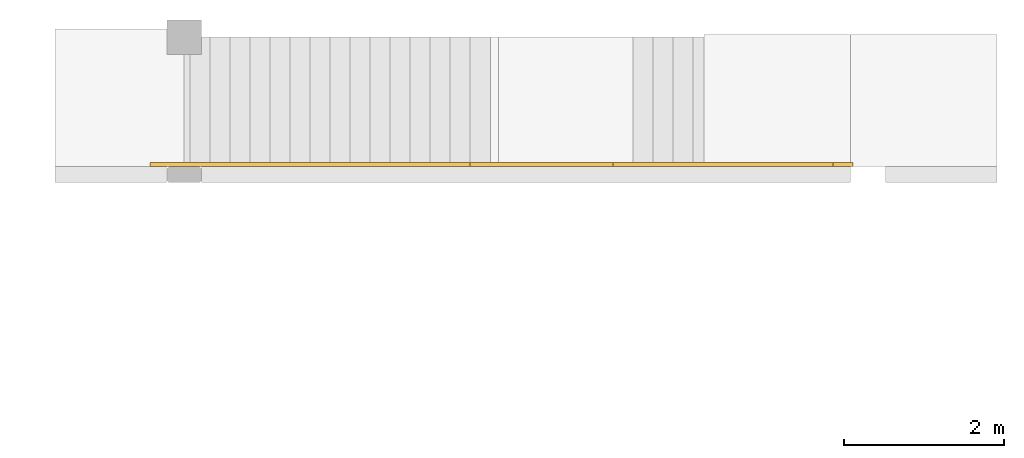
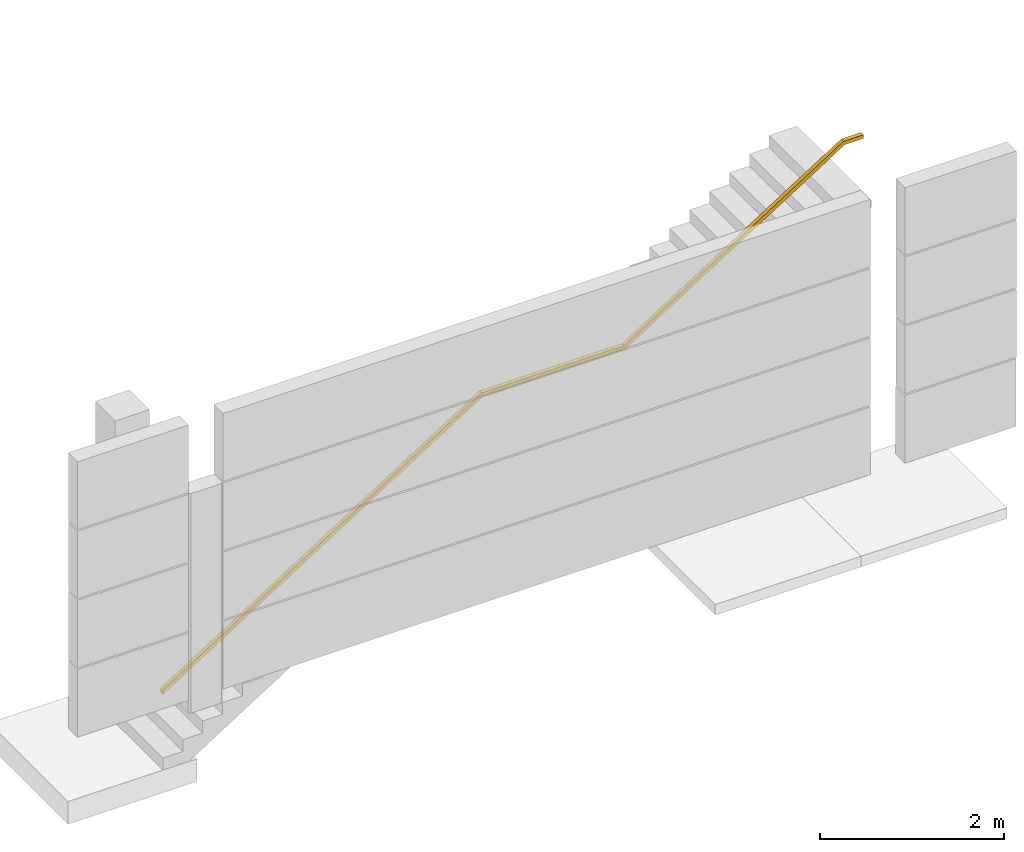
# One storey, part 4 of 5: 1 railing, 1 element without a shape of its own.
"""IFC2X3 building model written with IfcOpenShell, lengths in millimetres."""

import ifcopenshell
import ifcopenshell.guid

model = None  # the IFC model being written
_history = None  # IfcOwnerHistory: only IFC2X3 demands one
_inside = {}  # id of a spatial element -> (the spatial element, [elements in it])
_under = {}  # id of a project, library or spatial element -> (it, [spatial elements below it])
_declared = {}  # id of a project -> (the project, [libraries it declares])
_typed = {}  # id of a type object -> (the type object, [elements of that type])
_made_of = {}  # id of a material, layer set ... -> (it, [elements and type objects made of it])


def new_model(schema):
    """Start an empty IFC model of exactly this schema.

    Asked for "IFC4X3", IfcOpenShell would pick the latest addendum, in which some entities
    have other attributes; the version numbers below select the first issue.
    IFC2X3 requires an IfcOwnerHistory on every rooted entity: one is made here for all.
    """
    global model, _history
    if schema == "IFC4X3":
        model = ifcopenshell.file(schema_version=(4, 3, 0, 0))
    else:
        model = ifcopenshell.file(schema=schema)
    _inside.clear()
    _under.clear()
    _declared.clear()
    _typed.clear()
    _made_of.clear()
    _history = None
    if model.schema == "IFC2X3":
        org = make("IfcOrganization", Name="unknown")
        user = make(
            "IfcPersonAndOrganization",
            ThePerson=make("IfcPerson", FamilyName="unknown"),
            TheOrganization=org,
        )
        app = make(
            "IfcApplication",
            ApplicationDeveloper=org,
            Version="unknown",
            ApplicationFullName="unknown",
            ApplicationIdentifier="unknown",
        )
        _history = make(
            "IfcOwnerHistory",
            OwningUser=user,
            OwningApplication=app,
            ChangeAction="ADDED",
            CreationDate=0,
        )
    return model


def make(cls, **values):
    """One entity of the class cls with the attributes given. An attribute that is None is left unset."""
    return model.create_entity(
        cls, **{name: value for name, value in values.items() if value is not None}
    )


def entity(cls, *values):
    """Any entity or typed value of the class cls, its attributes in the order of the schema. None: left unset."""
    e = model.create_entity(cls)
    for i, value in enumerate(values):
        if value is not None:
            e[i] = value
    return e


def rooted(cls, **values):
    """An entity with a GlobalId (a new one), such as an element, a storey or a relation."""
    return make(cls, GlobalId=ifcopenshell.guid.new(), OwnerHistory=_history, **values)


def si_unit(unit_type, name, prefix=None):
    """IfcSIUnit, for example si_unit("LENGTHUNIT", "METRE", prefix="MILLI")."""
    return make("IfcSIUnit", UnitType=unit_type, Prefix=prefix, Name=name)


def converted_unit(unit_type, name, factor, base, dimensions=None, offset=None):
    """IfcConversionBasedUnit, such as the inch: factor (a typed value) times the base unit."""
    return make(
        "IfcConversionBasedUnit"
        if offset is None
        else "IfcConversionBasedUnitWithOffset",
        ConversionOffset=offset,
        Dimensions=None
        if dimensions is None
        else entity("IfcDimensionalExponents", *dimensions),
        UnitType=unit_type,
        Name=name,
        ConversionFactor=make(
            "IfcMeasureWithUnit", ValueComponent=factor, UnitComponent=base
        ),
    )


def derived_unit(unit_type, elements):
    """IfcDerivedUnit: a product of units, each with its exponent."""
    return make(
        "IfcDerivedUnit",
        Elements=[
            make("IfcDerivedUnitElement", Unit=unit, Exponent=power)
            for unit, power in elements
        ],
        UnitType=unit_type,
    )


def assignment(units):
    """IfcUnitAssignment: the units of a project."""
    return None if units is None else make("IfcUnitAssignment", Units=units)


def point(xyz):
    """IfcCartesianPoint."""
    return None if xyz is None else make("IfcCartesianPoint", Coordinates=xyz)


def direction(xyz):
    """IfcDirection."""
    return None if xyz is None else make("IfcDirection", DirectionRatios=xyz)


def frame(location, z_axis=None, x_axis=None):
    """IfcAxis2Placement3D, a coordinate frame: its origin and axes. An axis left out is left unset."""
    return make(
        "IfcAxis2Placement3D",
        Location=point(location),
        Axis=direction(z_axis),
        RefDirection=direction(x_axis),
    )


def origin():
    """The frame at (0, 0, 0) with its axes left unset."""
    return frame((0.0, 0.0, 0.0))


def place(relative_to, where):
    """IfcLocalPlacement: puts the frame where relative to a parent placement (None: the world)."""
    return make(
        "IfcLocalPlacement", PlacementRelTo=relative_to, RelativePlacement=where
    )


def context(
    kind, dimensions, precision=None, world=None, true_north=None, identifier=None
):
    """IfcGeometricRepresentationContext, for example the 3D "Model" context."""
    return make(
        "IfcGeometricRepresentationContext",
        ContextIdentifier=identifier,
        ContextType=kind,
        CoordinateSpaceDimension=dimensions,
        Precision=precision,
        WorldCoordinateSystem=world,
        TrueNorth=true_north,
    )


def subcontext(parent, identifier, kind, view, scale=None):
    """IfcGeometricRepresentationSubContext, for example "Body" below "Model"."""
    return make(
        "IfcGeometricRepresentationSubContext",
        ContextIdentifier=identifier,
        ContextType=kind,
        ParentContext=parent,
        TargetScale=scale,
        TargetView=view,
    )


def project(units=None, contexts=None):
    """IfcProject with its units and contexts."""
    return rooted(
        "IfcProject",
        Name="project",
        RepresentationContexts=contexts,
        UnitsInContext=assignment(units),
    )


def spatial(cls, under=None, at=None, **own):
    """A site, building, storey or space (cls), placed at a placement, below another one or the project."""
    s = rooted(cls, ObjectPlacement=at, **own)
    if under is not None:
        _under.setdefault(under.id(), (under, []))[1].append(s)
    return s


def faces_of(points, faces, orient=None, outer=None):
    """IfcFace entities. A face is a list of loops; a loop is a list of indices into points, from 0.

    orient and outer hold one flag for each loop. By default every Orientation is true, the
    first loop of a face is its IfcFaceOuterBound and the others are IfcFaceBound.
    """
    made = []
    for i, loops in enumerate(faces):
        bounds = []
        for j, loop in enumerate(loops):
            is_outer = j == 0 if outer is None else outer[i][j]
            bounds.append(
                make(
                    "IfcFaceOuterBound" if is_outer else "IfcFaceBound",
                    Bound=make("IfcPolyLoop", Polygon=[points[k] for k in loop]),
                    Orientation=True if orient is None else orient[i][j],
                )
            )
        made.append(make("IfcFace", Bounds=bounds))
    return made


def faceted_brep(points, faces, orient=None, outer=None, voids=None):
    """IfcFacetedBrep: a solid bounded by flat faces; with voids (closed shells), ...WithVoids."""
    shared = [point(p) for p in points]
    hull = make("IfcClosedShell", CfsFaces=faces_of(shared, faces, orient, outer))
    if voids is None:
        return make("IfcFacetedBrep", Outer=hull)
    return make(
        "IfcFacetedBrepWithVoids",
        Outer=hull,
        Voids=[
            make(cls, CfsFaces=faces_of(shared, fs, o, b)) for cls, fs, o, b in voids
        ],
    )


def shape(context_of_items, identifier, shape_type, items):
    """IfcShapeRepresentation: the items that make up one representation, for example the "Body"."""
    return make(
        "IfcShapeRepresentation",
        ContextOfItems=context_of_items,
        RepresentationIdentifier=identifier,
        RepresentationType=shape_type,
        Items=items,
    )


def made_of(thing, what):
    """Note that an element or type object is made of a material, layer set ...; save() writes the relation."""
    if what is not None:
        _made_of.setdefault(what.id(), (what, []))[1].append(thing)
    return thing


def element(
    cls,
    number,
    at=None,
    inside=None,
    cuts=None,
    type_object=None,
    material=None,
    context=None,
    identifier="Body",
    shape_type=None,
    held_by="IfcProductDefinitionShape",
    body=None,
    shapes=None,
    **own,
):
    """One element of the class cls, such as IfcWall. Its Tag is "e" and its number.

    at: its placement. inside: the storey or other place that contains it. cuts: it is an
    opening in that element (IfcRelVoidsElement). A single representation is given by context,
    identifier, shape_type and body (its items); several are given by shapes. held_by: the class
    of the entity that holds the representations. save() writes the other relations.
    """
    e = rooted(cls, Tag="e%d" % number, ObjectPlacement=at, **own)
    if body is not None:
        shapes = [shape(context, identifier, shape_type, body)]
    if shapes is not None:
        e.Representation = make(held_by, Representations=shapes)
    if inside is not None:
        _inside.setdefault(inside.id(), (inside, []))[1].append(e)
    if cuts is not None:
        rooted(
            "IfcRelVoidsElement", RelatingBuildingElement=cuts, RelatedOpeningElement=e
        )
    if type_object is not None:
        _typed.setdefault(type_object.id(), (type_object, []))[1].append(e)
    return made_of(e, material)


def aggregate(whole, parts):
    """IfcRelAggregates: a whole, such as a stair, and the parts it consists of."""
    return rooted("IfcRelAggregates", RelatingObject=whole, RelatedObjects=parts)


def save(model, path):
    """Write the relations noted so far, then the file.

    IfcRelAggregates (storeys below a building ...), IfcRelContainedInSpatialStructure (elements
    in a storey), IfcRelDefinesByType, IfcRelAssociatesMaterial and IfcRelDeclares: one each for
    every whole, place, type object, material and project.
    """
    for whole, parts in _under.values():
        aggregate(whole, parts)
    for where, things in _inside.values():
        rooted(
            "IfcRelContainedInSpatialStructure",
            RelatedElements=things,
            RelatingStructure=where,
        )
    for kind, things in _typed.values():
        rooted("IfcRelDefinesByType", RelatedObjects=things, RelatingType=kind)
    for what, things in _made_of.values():
        rooted("IfcRelAssociatesMaterial", RelatedObjects=things, RelatingMaterial=what)
    for by, libraries in _declared.values():
        rooted("IfcRelDeclares", RelatingContext=by, RelatedDefinitions=libraries)
    model.write(path)


model = new_model("IFC2X3")

# Units and contexts
model_context = context("Model", 3, precision=0.01, world=origin(), true_north=direction((6.12303176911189e-17, 1.0)))
body_context = subcontext(model_context, "Body", "Model", "MODEL_VIEW")
ifc_project = project(units=[si_unit("LENGTHUNIT", "METRE", prefix="MILLI"), si_unit("AREAUNIT", "SQUARE_METRE"), si_unit("VOLUMEUNIT", "CUBIC_METRE"), converted_unit("PLANEANGLEUNIT", "DEGREE", entity("IfcRatioMeasure", 0.0174532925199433), si_unit("PLANEANGLEUNIT", "RADIAN"), dimensions=[0, 0, 0, 0, 0, 0, 0]), si_unit("MASSUNIT", "GRAM", prefix="KILO"), derived_unit("MASSDENSITYUNIT", [(si_unit("MASSUNIT", "GRAM", prefix="KILO"), 1), (si_unit("LENGTHUNIT", "METRE"), -3)]), derived_unit("MOMENTOFINERTIAUNIT", [(si_unit("LENGTHUNIT", "METRE"), 4)]), si_unit("TIMEUNIT", "SECOND"), si_unit("FREQUENCYUNIT", "HERTZ"), si_unit("THERMODYNAMICTEMPERATUREUNIT", "DEGREE_CELSIUS"), derived_unit("THERMALTRANSMITTANCEUNIT", [(si_unit("MASSUNIT", "GRAM", prefix="KILO"), 1), (si_unit("THERMODYNAMICTEMPERATUREUNIT", "KELVIN"), -1), (si_unit("TIMEUNIT", "SECOND"), -3)]), derived_unit("VOLUMETRICFLOWRATEUNIT", [(si_unit("LENGTHUNIT", "METRE"), 3), (si_unit("TIMEUNIT", "SECOND"), -1)]), si_unit("ELECTRICCURRENTUNIT", "AMPERE"), si_unit("ELECTRICVOLTAGEUNIT", "VOLT"), si_unit("POWERUNIT", "WATT"), si_unit("FORCEUNIT", "NEWTON", prefix="KILO"), si_unit("ILLUMINANCEUNIT", "LUX"), si_unit("LUMINOUSFLUXUNIT", "LUMEN"), si_unit("LUMINOUSINTENSITYUNIT", "CANDELA"), derived_unit("USERDEFINED", [(si_unit("MASSUNIT", "GRAM", prefix="KILO"), -1), (si_unit("LENGTHUNIT", "METRE"), -2), (si_unit("TIMEUNIT", "SECOND"), 3), (si_unit("LUMINOUSFLUXUNIT", "LUMEN"), 1)]), derived_unit("LINEARVELOCITYUNIT", [(si_unit("LENGTHUNIT", "METRE"), 1), (si_unit("TIMEUNIT", "SECOND"), -1)]), si_unit("PRESSUREUNIT", "PASCAL"), derived_unit("USERDEFINED", [(si_unit("LENGTHUNIT", "METRE"), -2), (si_unit("MASSUNIT", "GRAM", prefix="KILO"), 1), (si_unit("TIMEUNIT", "SECOND"), -2)]), derived_unit("LINEARFORCEUNIT", [(si_unit("MASSUNIT", "GRAM", prefix="KILO"), 1), (si_unit("LENGTHUNIT", "METRE"), 1), (si_unit("TIMEUNIT", "SECOND"), -2), (si_unit("LENGTHUNIT", "METRE"), -1)]), derived_unit("PLANARFORCEUNIT", [(si_unit("MASSUNIT", "GRAM", prefix="KILO"), 1), (si_unit("LENGTHUNIT", "METRE"), 1), (si_unit("TIMEUNIT", "SECOND"), -2), (si_unit("LENGTHUNIT", "METRE"), -2)])], contexts=[model_context])

# Site, building, storey
site_placement = place(None, frame((10627.5135316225, 21939.0796949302, 0.0)))
site = spatial("IfcSite", under=ifc_project, at=site_placement, Name="Default", CompositionType="ELEMENT")
building_placement = place(site_placement, origin())
building = spatial("IfcBuilding", under=site, at=building_placement, CompositionType="ELEMENT")
storey_placement = place(building_placement, origin())
storey = spatial("IfcBuildingStorey", under=building, at=storey_placement, Name="RDC", CompositionType="ELEMENT", Elevation=0.0)

# Stair, railing
stair_placement = place(storey_placement, origin())
stair = element("IfcStair", 1, at=stair_placement, inside=storey, Name="Precast Stair:Stair", ObjectType="Precast Stair:Precast_Stair", ShapeType="TWO_STRAIGHT_RUN_STAIR")
railing_placement = place(stair_placement, frame((-9222.51353162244, 16696.3203050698, 199.713501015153)))
railing = element("IfcRailing", 2, at=railing_placement, Name="Railing:900mm_Pipe", ObjectType="Railing:900mm_Pipe", PredefinedType="NOTDEFINED", context=body_context, shape_type="Brep", body=[
    faceted_brep([(0.0, 50.0, 59.2520162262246), (0.0, 50.0, 0.0), (0.0, 0.0, 0.0), (0.0, 0.0, 59.2520162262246), (4000.0, 50.0, 2602.70029208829), (4014.55035089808, 50.0, 2552.7002920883), (4014.55035089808, 0.0, 2552.70029208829), (4000.0, 0.0, 2602.70029208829), (4250.0, 50.0, 2602.70029208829), (4250.0, 50.0, 2552.70029208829), (4250.0, 0.0, 2552.70029208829), (4250.0, 0.0, 2602.70029208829), (5790.0, 50.0, 2602.70029208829), (5804.55035089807, 50.0, 2552.70029208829), (5804.55035089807, 0.0, 2552.70029208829), (5790.0, 0.0, 2602.70029208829), (6040.0, 50.0, 2761.66580932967), (6066.82871020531, 50.0, 2719.47315228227), (6066.82871020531, 0.0, 2719.47315228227), (6040.0, 0.0, 2761.66580932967), (8540.0, 50.0, 4351.32098174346), (8554.55035089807, 50.0, 4301.32098174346), (8554.55035089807, 0.0, 4301.32098174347), (8540.0, 0.0, 4351.32098174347), (8790.0, 50.0, 4351.32098174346), (8790.0, 0.0, 4351.32098174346), (8790.0, 0.0, 4301.32098174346), (8790.0, 50.0, 4301.32098174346)], [[[0, 1, 2, 3]], [[1, 0, 4, 5]], [[2, 1, 5, 6]], [[3, 2, 6, 7]], [[0, 3, 7, 4]], [[5, 4, 8, 9]], [[6, 5, 9, 10]], [[7, 6, 10, 11]], [[4, 7, 11, 8]], [[9, 8, 12, 13]], [[10, 9, 13, 14]], [[11, 10, 14, 15]], [[8, 11, 15, 12]], [[13, 12, 16, 17]], [[14, 13, 17, 18]], [[15, 14, 18, 19]], [[12, 15, 19, 16]], [[17, 16, 20, 21]], [[18, 17, 21, 22]], [[19, 18, 22, 23]], [[16, 19, 23, 20]], [[24, 25, 26, 27]], [[21, 20, 24, 27]], [[22, 21, 27, 26]], [[23, 22, 26, 25]], [[20, 23, 25, 24]]]),
])
aggregate(stair, [railing])

save(model, "model.ifc")
